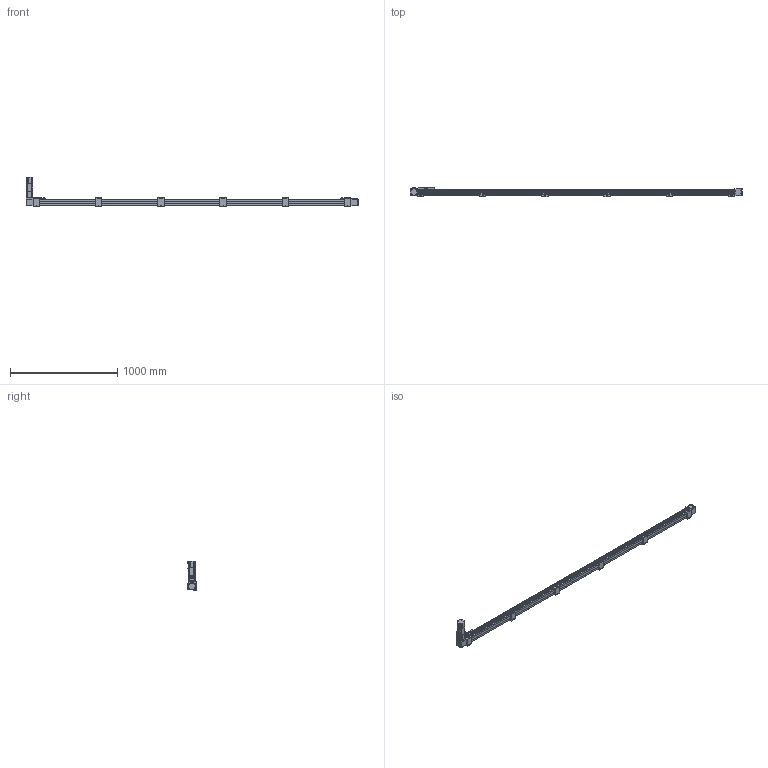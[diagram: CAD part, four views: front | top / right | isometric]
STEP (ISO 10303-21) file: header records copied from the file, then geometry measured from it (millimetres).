
FILE_DESCRIPTION(/* description */ ('STEP AP203'),/* implementation_level */ '2;1');
FILE_NAME(/* name */ 'SK60-P13-S2800-BL-T40-C1-N(0)',/* time_stamp */ '2023-04-06T03:38:17+02:00',/* author */ ('License CC BY-ND 4.0'),/* organization */ ('CADENAS'),/* preprocessor_version */ 'ST-DEVELOPER v19.3',/* originating_system */ 'PARTsolutions',/* authorisation */ ' ');
FILE_SCHEMA (('CONFIG_CONTROL_DESIGN'));
Length unit declared in the file: millimetre
Products named in the file (11): SK60-P13-S2800-BL-T40-C1-N(0); PSC140-sensor; SK60-S450_seat; SK60-S450-BL-C1_slider; SK60_body3; SK60_body6; SK60-BL_body2; T40-p1; SK60_body5; SK60_body4; SK60-S2800-BL-C1_body
Assembly tree (21 placements, depth 2):
  SK60-P13-S2800-BL-T40-C1-N(0)
    PSC140-sensor  x3
    SK60-S450_seat  x6
    SK60-S450-BL-C1_slider
    SK60_body3  x3
    SK60_body6  x2
    SK60-BL_body2  x2
    T40-p1
    SK60_body5
    SK60_body4
    SK60-S2800-BL-C1_body
Bounding box: 3100 x 90 x 278.2 mm (x, y, z)
Volume: 11132015 mm3; surface area: 1346980.1 mm2
Topology: 21 solids, 25 shells, 1010 faces, 2501 edges, 1650 vertices
Faces by surface type: plane 640, cylinder 330, cone 38, torus 2
Full cylindrical faces by diameter (mm): 2.8 x3, 3.3 x4, 4.2 x8, 4.5 x26, 4.6 x3, 4.917 x32, 5 x2, 5.478 x4, 5.5 x35, 6.5 x12, 8 x4, 8.5 x4, 9.988 x4, 10 x24, 13.556 x1, 14 x1, 14.586 x1, 19.692 x1, 38.432 x2, 43 x1, 44 x3, 47 x2, 50 x2
Entity records: 19403 total; most frequent: DIRECTION 3300, CARTESIAN_POINT 3293, ORIENTED_EDGE 3050, EDGE_CURVE 1525, AXIS2_PLACEMENT_3D 1104, LINE 1092, VECTOR 1092, VERTEX_POINT 1077
